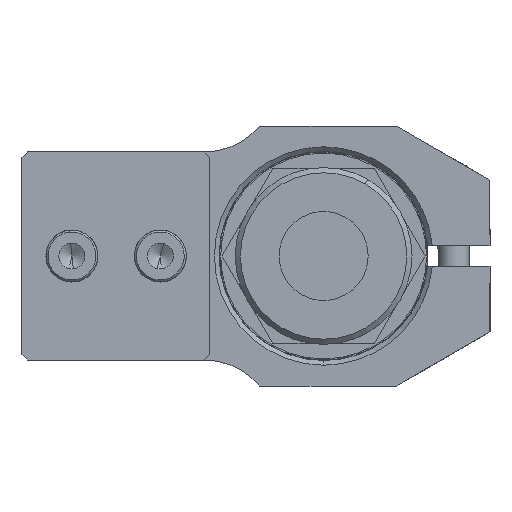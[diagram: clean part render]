
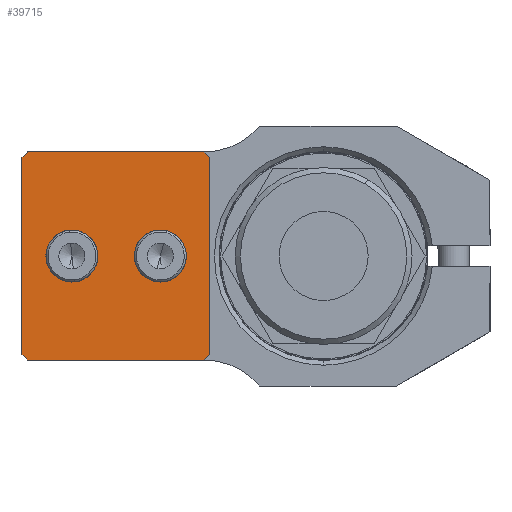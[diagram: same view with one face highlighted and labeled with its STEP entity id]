
A CAD part, front view. The second image highlights one B-rep face of the part: STEP entity #39715.
In plain terms, the highlighted planar face has unit normal (0, -1, 0).
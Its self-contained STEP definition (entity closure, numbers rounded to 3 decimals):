
#630 = ORIENTED_EDGE ( 'NONE', *, *, #7084, .T. ) ;
#1527 = DIRECTION ( 'NONE',  ( 0., 0., -1. ) ) ;
#1562 = EDGE_CURVE ( 'NONE', #30190, #11063, #6741, .T. ) ;
#2236 = EDGE_CURVE ( 'NONE', #9253, #12223, #2827, .T. ) ;
#2483 = ORIENTED_EDGE ( 'NONE', *, *, #59612, .F. ) ;
#2827 = LINE ( 'NONE', #61449, #41464 ) ;
#5094 = DIRECTION ( 'NONE',  ( -0.707, 0., 0.707 ) ) ;
#5144 = ORIENTED_EDGE ( 'NONE', *, *, #43831, .T. ) ;
#5735 = ORIENTED_EDGE ( 'NONE', *, *, #51210, .F. ) ;
#6445 = CARTESIAN_POINT ( 'NONE',  ( -5.25, -8.5, 0. ) ) ;
#6741 = CIRCLE ( 'NONE', #49926, 2.5 ) ;
#7084 = EDGE_CURVE ( 'NONE', #59440, #35924, #50767, .T. ) ;
#7188 = ORIENTED_EDGE ( 'NONE', *, *, #46278, .T. ) ;
#8358 = CARTESIAN_POINT ( 'NONE',  ( -23.25, -8.5, -9.5 ) ) ;
#8823 = ORIENTED_EDGE ( 'NONE', *, *, #28099, .T. ) ;
#8880 = DIRECTION ( 'NONE',  ( 0., 1., 0. ) ) ;
#9253 = VERTEX_POINT ( 'NONE', #51860 ) ;
#11063 = VERTEX_POINT ( 'NONE', #36627 ) ;
#11954 = CARTESIAN_POINT ( 'NONE',  ( -22.75, -8.5, 10. ) ) ;
#12223 = VERTEX_POINT ( 'NONE', #18314 ) ;
#12385 = AXIS2_PLACEMENT_3D ( 'NONE', #21106, #55041, #25976 ) ;
#13746 = EDGE_CURVE ( 'NONE', #22965, #57358, #24588, .T. ) ;
#14328 = CARTESIAN_POINT ( 'NONE',  ( -9.95, -8.5, 2.5 ) ) ;
#15316 = CIRCLE ( 'NONE', #12385, 2.5 ) ;
#15831 = CARTESIAN_POINT ( 'NONE',  ( -23.25, -8.5, 9.5 ) ) ;
#16007 = AXIS2_PLACEMENT_3D ( 'NONE', #24177, #58067, #29004 ) ;
#16247 = LINE ( 'NONE', #11954, #27577 ) ;
#16537 = EDGE_LOOP ( 'NONE', ( #29752, #32811 ) ) ;
#18314 = CARTESIAN_POINT ( 'NONE',  ( -5.25, -8.5, -9.5 ) ) ;
#21106 = CARTESIAN_POINT ( 'NONE',  ( -9.95, -8.5, 0. ) ) ;
#22965 = VERTEX_POINT ( 'NONE', #31802 ) ;
#23266 = VECTOR ( 'NONE', #5094, 1000. ) ;
#24177 = CARTESIAN_POINT ( 'NONE',  ( -9.95, -8.5, 0. ) ) ;
#24588 = LINE ( 'NONE', #52035, #48853 ) ;
#25905 = DIRECTION ( 'NONE',  ( 0., 0., 1. ) ) ;
#25976 = DIRECTION ( 'NONE',  ( 0., 0., -1. ) ) ;
#26552 = ORIENTED_EDGE ( 'NONE', *, *, #2236, .T. ) ;
#26956 = DIRECTION ( 'NONE',  ( 0., -1., 0. ) ) ;
#27577 = VECTOR ( 'NONE', #31402, 1000. ) ;
#28099 = EDGE_CURVE ( 'NONE', #57358, #57964, #16247, .T. ) ;
#29004 = DIRECTION ( 'NONE',  ( 0., 0., -1. ) ) ;
#29094 = EDGE_CURVE ( 'NONE', #12223, #47582, #38414, .T. ) ;
#29124 = EDGE_LOOP ( 'NONE', ( #7188, #5144 ) ) ;
#29752 = ORIENTED_EDGE ( 'NONE', *, *, #32047, .T. ) ;
#30190 = VERTEX_POINT ( 'NONE', #53802 ) ;
#30516 = DIRECTION ( 'NONE',  ( 0., 1., 0. ) ) ;
#30691 = AXIS2_PLACEMENT_3D ( 'NONE', #46045, #26956, #60875 ) ;
#31127 = CARTESIAN_POINT ( 'NONE',  ( -5.25, -8.5, 9.5 ) ) ;
#31328 = VECTOR ( 'NONE', #39547, 1000. ) ;
#31402 = DIRECTION ( 'NONE',  ( -0.707, 0., -0.707 ) ) ;
#31802 = CARTESIAN_POINT ( 'NONE',  ( -5.75, -8.5, 10. ) ) ;
#31886 = VECTOR ( 'NONE', #47483, 1000. ) ;
#32047 = EDGE_CURVE ( 'NONE', #11063, #30190, #36439, .T. ) ;
#32811 = ORIENTED_EDGE ( 'NONE', *, *, #1562, .T. ) ;
#33280 = FACE_BOUND ( 'NONE', #29124, .T. ) ;
#34466 = CIRCLE ( 'NONE', #16007, 2.5 ) ;
#34669 = CARTESIAN_POINT ( 'NONE',  ( -23.25, -8.5, 0. ) ) ;
#35006 = EDGE_CURVE ( 'NONE', #47582, #22965, #36086, .T. ) ;
#35924 = VERTEX_POINT ( 'NONE', #61764 ) ;
#36086 = LINE ( 'NONE', #38925, #23266 ) ;
#36344 = CARTESIAN_POINT ( 'NONE',  ( -22.75, -8.5, 10. ) ) ;
#36439 = CIRCLE ( 'NONE', #36700, 2.5 ) ;
#36627 = CARTESIAN_POINT ( 'NONE',  ( -18.45, -8.5, -2.5 ) ) ;
#36700 = AXIS2_PLACEMENT_3D ( 'NONE', #59595, #30516, #1527 ) ;
#36845 = VECTOR ( 'NONE', #25905, 1000. ) ;
#37303 = DIRECTION ( 'NONE',  ( 0.707, 0., -0.707 ) ) ;
#37843 = CARTESIAN_POINT ( 'NONE',  ( -18.45, -8.5, 0. ) ) ;
#38093 = CARTESIAN_POINT ( 'NONE',  ( -23.25, -8.5, -9.5 ) ) ;
#38414 = LINE ( 'NONE', #6445, #36845 ) ;
#38925 = CARTESIAN_POINT ( 'NONE',  ( -5.25, -8.5, 9.5 ) ) ;
#39313 = VERTEX_POINT ( 'NONE', #14328 ) ;
#39547 = DIRECTION ( 'NONE',  ( 0., 0., 1. ) ) ;
#39715 = ADVANCED_FACE ( 'NONE', ( #57574, #33280, #46188 ), #56003, .T. ) ;
#39757 = ORIENTED_EDGE ( 'NONE', *, *, #13746, .T. ) ;
#41464 = VECTOR ( 'NONE', #46811, 1000. ) ;
#42720 = DIRECTION ( 'NONE',  ( 0., 0., -1. ) ) ;
#43831 = EDGE_CURVE ( 'NONE', #39313, #55756, #34466, .T. ) ;
#46045 = CARTESIAN_POINT ( 'NONE',  ( 0., -8.5, 0. ) ) ;
#46188 = FACE_BOUND ( 'NONE', #16537, .T. ) ;
#46278 = EDGE_CURVE ( 'NONE', #55756, #39313, #15316, .T. ) ;
#46811 = DIRECTION ( 'NONE',  ( 0.707, 0., 0.707 ) ) ;
#47483 = DIRECTION ( 'NONE',  ( -1., 0., 0. ) ) ;
#47582 = VERTEX_POINT ( 'NONE', #31127 ) ;
#48643 = ORIENTED_EDGE ( 'NONE', *, *, #29094, .T. ) ;
#48853 = VECTOR ( 'NONE', #56910, 1000. ) ;
#49926 = AXIS2_PLACEMENT_3D ( 'NONE', #37843, #8880, #42720 ) ;
#50767 = LINE ( 'NONE', #8358, #62192 ) ;
#51210 = EDGE_CURVE ( 'NONE', #9253, #35924, #57718, .T. ) ;
#51462 = ORIENTED_EDGE ( 'NONE', *, *, #35006, .T. ) ;
#51860 = CARTESIAN_POINT ( 'NONE',  ( -5.75, -8.5, -10. ) ) ;
#52035 = CARTESIAN_POINT ( 'NONE',  ( -7.25, -8.5, 10. ) ) ;
#53736 = EDGE_LOOP ( 'NONE', ( #2483, #630, #5735, #26552, #48643, #51462, #39757, #8823 ) ) ;
#53802 = CARTESIAN_POINT ( 'NONE',  ( -18.45, -8.5, 2.5 ) ) ;
#55041 = DIRECTION ( 'NONE',  ( 0., 1., 0. ) ) ;
#55669 = CARTESIAN_POINT ( 'NONE',  ( -9.95, -8.5, -2.5 ) ) ;
#55756 = VERTEX_POINT ( 'NONE', #55669 ) ;
#56003 = PLANE ( 'NONE',  #30691 ) ;
#56910 = DIRECTION ( 'NONE',  ( -1., 0., 0. ) ) ;
#57171 = LINE ( 'NONE', #34669, #31328 ) ;
#57241 = CARTESIAN_POINT ( 'NONE',  ( -7.25, -8.5, -10. ) ) ;
#57358 = VERTEX_POINT ( 'NONE', #36344 ) ;
#57574 = FACE_OUTER_BOUND ( 'NONE', #53736, .T. ) ;
#57718 = LINE ( 'NONE', #57241, #31886 ) ;
#57964 = VERTEX_POINT ( 'NONE', #15831 ) ;
#58067 = DIRECTION ( 'NONE',  ( 0., 1., 0. ) ) ;
#59440 = VERTEX_POINT ( 'NONE', #38093 ) ;
#59595 = CARTESIAN_POINT ( 'NONE',  ( -18.45, -8.5, 0. ) ) ;
#59612 = EDGE_CURVE ( 'NONE', #59440, #57964, #57171, .T. ) ;
#60875 = DIRECTION ( 'NONE',  ( 0., 0., -1. ) ) ;
#61449 = CARTESIAN_POINT ( 'NONE',  ( -5.75, -8.5, -10. ) ) ;
#61764 = CARTESIAN_POINT ( 'NONE',  ( -22.75, -8.5, -10. ) ) ;
#62192 = VECTOR ( 'NONE', #37303, 1000. ) ;
